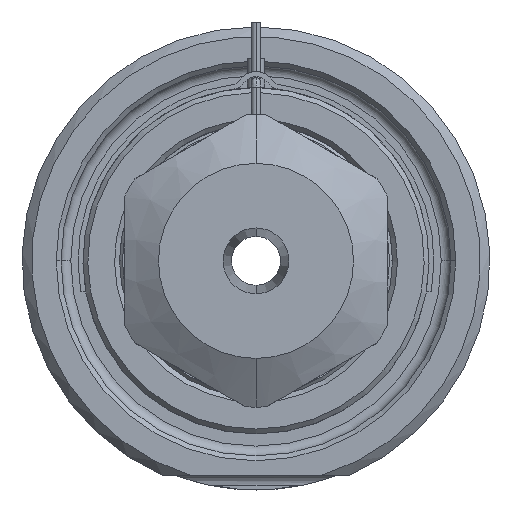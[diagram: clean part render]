
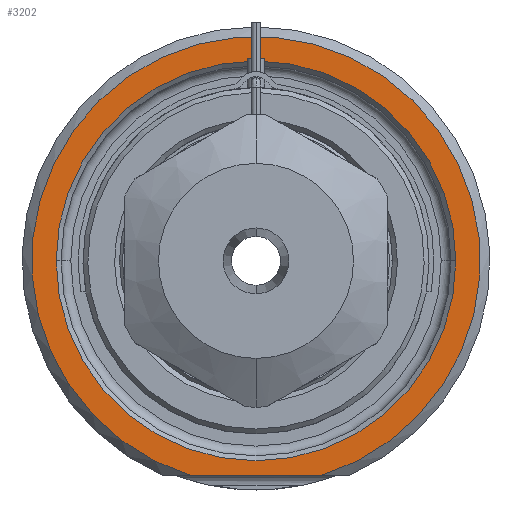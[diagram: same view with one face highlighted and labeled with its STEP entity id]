
A CAD part, front view. The second image highlights one B-rep face of the part: STEP entity #3202.
In plain terms, the highlighted planar face has unit normal (0, -1, 0).
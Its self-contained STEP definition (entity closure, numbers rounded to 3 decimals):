
#1=DIRECTION('',(1.,0.,0.));
#2=VECTOR('',#1,13.416);
#3=CARTESIAN_POINT('',(-6.708,0.,-22.));
#4=LINE('',#3,#2);
#5=CARTESIAN_POINT('',(0.,0.,0.));
#6=DIRECTION('',(0.,1.,0.));
#7=DIRECTION('',(-1.,0.,0.));
#8=AXIS2_PLACEMENT_3D('',#5,#6,#7);
#10=CARTESIAN_POINT('',(0.,0.,0.));
#11=DIRECTION('',(0.,1.,0.));
#12=DIRECTION('',(1.,0.,0.));
#13=AXIS2_PLACEMENT_3D('',#10,#11,#12);
#121=CARTESIAN_POINT('',(0.,0.,0.));
#122=DIRECTION('',(0.,-1.,0.));
#123=DIRECTION('',(0.292,0.,-0.957));
#124=AXIS2_PLACEMENT_3D('',#121,#122,#123);
#2651=CARTESIAN_POINT('',(-20.5,0.,0.));
#2652=CARTESIAN_POINT('',(20.5,0.,0.));
#2653=VERTEX_POINT('',#2651);
#2654=VERTEX_POINT('',#2652);
#2691=CARTESIAN_POINT('',(-6.708,0.,-22.));
#2692=CARTESIAN_POINT('',(6.708,0.,-22.));
#2693=VERTEX_POINT('',#2691);
#2694=VERTEX_POINT('',#2692);
#3185=CARTESIAN_POINT('',(0.,0.,0.));
#3186=DIRECTION('',(0.,-1.,0.));
#3187=DIRECTION('',(1.,0.,0.));
#3188=AXIS2_PLACEMENT_3D('',#3185,#3186,#3187);
#3189=PLANE('',#3188);
#3191=ORIENTED_EDGE('',*,*,#3190,.F.);
#3193=ORIENTED_EDGE('',*,*,#3192,.F.);
#3194=EDGE_LOOP('',(#3191,#3193));
#3195=FACE_OUTER_BOUND('',#3194,.F.);
#3197=ORIENTED_EDGE('',*,*,#3196,.F.);
#3199=ORIENTED_EDGE('',*,*,#3198,.F.);
#3200=EDGE_LOOP('',(#3197,#3199));
#3201=FACE_BOUND('',#3200,.F.);
#3202=ADVANCED_FACE('',(#3195,#3201),#3189,.T.);
#9=CIRCLE('',#8,20.5);
#14=CIRCLE('',#13,20.5);
#125=CIRCLE('',#124,23.);
#3190=EDGE_CURVE('',#2693,#2694,#4,.T.);
#3192=EDGE_CURVE('',#2694,#2693,#125,.T.);
#3196=EDGE_CURVE('',#2653,#2654,#9,.T.);
#3198=EDGE_CURVE('',#2654,#2653,#14,.T.);
